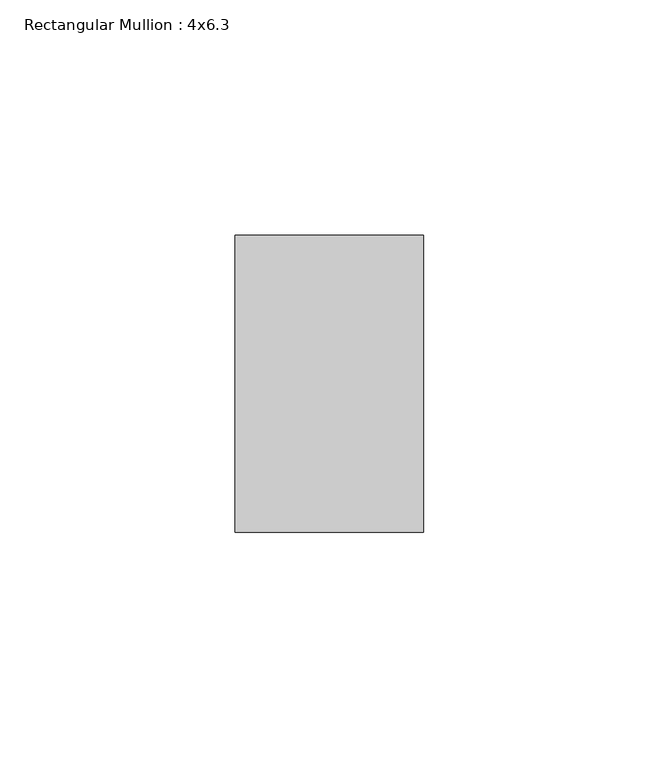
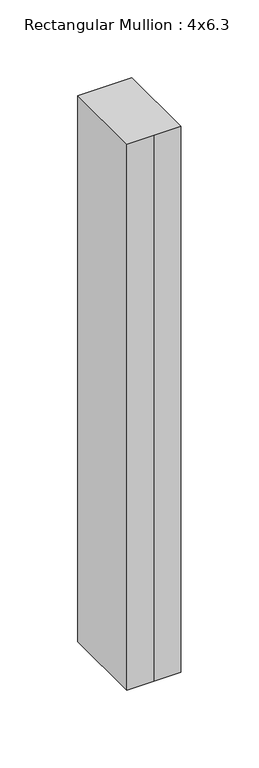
"""IFC4 building model written with IfcOpenShell, lengths in millimetres: member geometry, Rectangular Mullion : 4x6.3."""

from ifc_helpers import new_model, si_unit, frame, origin, place, context, project, spatial, polyline, outline, extrude, source, transform, mapped, element, save


def rectangular_mullion_4x6_3_959b26bb(model_context):
    return source(origin(), model_context, "Body", "SweptSolid", [
        extrude(outline(polyline([(-20.0, 20.0), (-20.0, 83.0), (20.0, 83.0), (20.0, 20.0), (0.0, 20.0), (-20.0, 20.0)])), frame((0.0, 0.0, -428.2771906), z_axis=(0.0, 0.0, 1.0), x_axis=(1.0, 0.0, 0.0)), (0.0, 0.0, 1.0), 428.2771906),
    ])


if __name__ == "__main__":
    model = new_model("IFC4")
    model_context = context("Model", 3, world=origin())
    ifc_project = project(units=[si_unit("LENGTHUNIT", "METRE", prefix="MILLI")], contexts=[model_context])
    site = spatial("IfcSite", under=ifc_project)
    building = spatial("IfcBuilding", under=site)
    placement = place(None, origin())
    rectangular_mullion_4x6_3_shape = rectangular_mullion_4x6_3_959b26bb(model_context)
    element("IfcMember", 1, ObjectType="Rectangular Mullion : 4x6.3", at=placement, inside=building, context=model_context, shape_type="MappedRepresentation", body=[
        mapped(rectangular_mullion_4x6_3_shape, transform((0.0, 0.0, 0.0), x_axis=(1.0, 0.0, 0.0), y_axis=(0.0, 1.0, 0.0), z_axis=(0.0, 0.0, 1.0))),
    ])
    save(model, "model.ifc")
